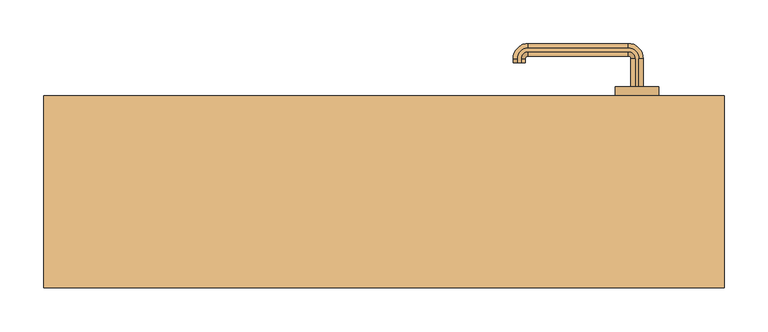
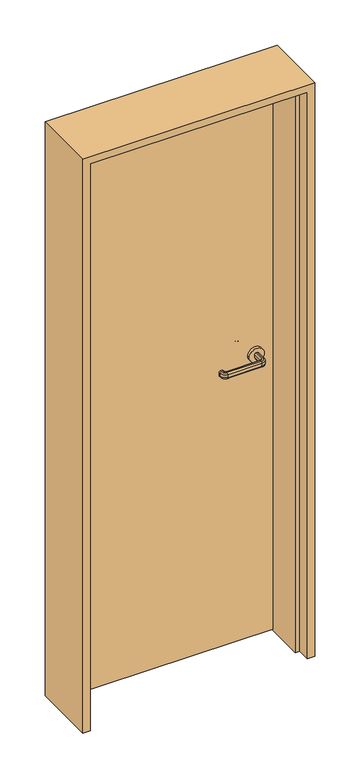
"""IFC4 building model written with IfcOpenShell, lengths in millimetres: door geometry, A1 片開 フラッシュ_A1枠 : SD10_H2000W700."""

import ifcopenshell
import ifcopenshell.guid

model = None  # the IFC model being written
_history = None  # IfcOwnerHistory: only IFC2X3 demands one
_inside = {}  # id of a spatial element -> (the spatial element, [elements in it])
_under = {}  # id of a project, library or spatial element -> (it, [spatial elements below it])
_declared = {}  # id of a project -> (the project, [libraries it declares])
_typed = {}  # id of a type object -> (the type object, [elements of that type])
_made_of = {}  # id of a material, layer set ... -> (it, [elements and type objects made of it])


def new_model(schema):
    """Start an empty IFC model of exactly this schema.

    Asked for "IFC4X3", IfcOpenShell would pick the latest addendum, in which some entities
    have other attributes; the version numbers below select the first issue.
    IFC2X3 requires an IfcOwnerHistory on every rooted entity: one is made here for all.
    """
    global model, _history
    if schema == "IFC4X3":
        model = ifcopenshell.file(schema_version=(4, 3, 0, 0))
    else:
        model = ifcopenshell.file(schema=schema)
    _inside.clear()
    _under.clear()
    _declared.clear()
    _typed.clear()
    _made_of.clear()
    _history = None
    if model.schema == "IFC2X3":
        org = make("IfcOrganization", Name="unknown")
        user = make(
            "IfcPersonAndOrganization",
            ThePerson=make("IfcPerson", FamilyName="unknown"),
            TheOrganization=org,
        )
        app = make(
            "IfcApplication",
            ApplicationDeveloper=org,
            Version="unknown",
            ApplicationFullName="unknown",
            ApplicationIdentifier="unknown",
        )
        _history = make(
            "IfcOwnerHistory",
            OwningUser=user,
            OwningApplication=app,
            ChangeAction="ADDED",
            CreationDate=0,
        )
    return model


def make(cls, **values):
    """One entity of the class cls with the attributes given. An attribute that is None is left unset."""
    return model.create_entity(
        cls, **{name: value for name, value in values.items() if value is not None}
    )


def rooted(cls, **values):
    """An entity with a GlobalId (a new one), such as an element, a storey or a relation."""
    return make(cls, GlobalId=ifcopenshell.guid.new(), OwnerHistory=_history, **values)


def si_unit(unit_type, name, prefix=None):
    """IfcSIUnit, for example si_unit("LENGTHUNIT", "METRE", prefix="MILLI")."""
    return make("IfcSIUnit", UnitType=unit_type, Prefix=prefix, Name=name)


def assignment(units):
    """IfcUnitAssignment: the units of a project."""
    return None if units is None else make("IfcUnitAssignment", Units=units)


def point(xyz):
    """IfcCartesianPoint."""
    return None if xyz is None else make("IfcCartesianPoint", Coordinates=xyz)


def direction(xyz):
    """IfcDirection."""
    return None if xyz is None else make("IfcDirection", DirectionRatios=xyz)


def frame(location, z_axis=None, x_axis=None):
    """IfcAxis2Placement3D, a coordinate frame: its origin and axes. An axis left out is left unset."""
    return make(
        "IfcAxis2Placement3D",
        Location=point(location),
        Axis=direction(z_axis),
        RefDirection=direction(x_axis),
    )


def frame_2d(location, x_axis=None):
    """IfcAxis2Placement2D, a coordinate frame in the plane: its origin and x axis."""
    return make(
        "IfcAxis2Placement2D", Location=point(location), RefDirection=direction(x_axis)
    )


def origin():
    """The frame at (0, 0, 0) with its axes left unset."""
    return frame((0.0, 0.0, 0.0))


def place(relative_to, where):
    """IfcLocalPlacement: puts the frame where relative to a parent placement (None: the world)."""
    return make(
        "IfcLocalPlacement", PlacementRelTo=relative_to, RelativePlacement=where
    )


def context(
    kind, dimensions, precision=None, world=None, true_north=None, identifier=None
):
    """IfcGeometricRepresentationContext, for example the 3D "Model" context."""
    return make(
        "IfcGeometricRepresentationContext",
        ContextIdentifier=identifier,
        ContextType=kind,
        CoordinateSpaceDimension=dimensions,
        Precision=precision,
        WorldCoordinateSystem=world,
        TrueNorth=true_north,
    )


def project(units=None, contexts=None):
    """IfcProject with its units and contexts."""
    return rooted(
        "IfcProject",
        Name="project",
        RepresentationContexts=contexts,
        UnitsInContext=assignment(units),
    )


def spatial(cls, under=None, at=None, **own):
    """A site, building, storey or space (cls), placed at a placement, below another one or the project."""
    s = rooted(cls, ObjectPlacement=at, **own)
    if under is not None:
        _under.setdefault(under.id(), (under, []))[1].append(s)
    return s


def polyline(points):
    """IfcPolyline through the points."""
    return make("IfcPolyline", Points=[point(p) for p in points])


def circle_curve(where, radius):
    """IfcCircle in the frame where."""
    return make("IfcCircle", Position=where, Radius=radius)


def ellipse_curve(where, semi_axis1, semi_axis2):
    """IfcEllipse in the frame where."""
    return make(
        "IfcEllipse", Position=where, SemiAxis1=semi_axis1, SemiAxis2=semi_axis2
    )


def trimmed(basis, trim1, trim2, sense, master):
    """IfcTrimmedCurve: the piece of a basis curve between two trims."""
    return make(
        "IfcTrimmedCurve",
        BasisCurve=basis,
        Trim1=trim1,
        Trim2=trim2,
        SenseAgreement=sense,
        MasterRepresentation=master,
    )


def segment(curve, same_sense, transition):
    """IfcCompositeCurveSegment."""
    return make(
        "IfcCompositeCurveSegment",
        Transition=transition,
        SameSense=same_sense,
        ParentCurve=curve,
    )


def composite_curve(segments, self_intersect=None):
    """IfcCompositeCurve: segments joined end to end."""
    return make("IfcCompositeCurve", Segments=segments, SelfIntersect=self_intersect)


def outline(outer, holes=None, kind="AREA"):
    """IfcArbitraryClosedProfileDef: a profile drawn as a closed curve; with holes, ...WithVoids."""
    if holes is None:
        return make("IfcArbitraryClosedProfileDef", ProfileType=kind, OuterCurve=outer)
    return make(
        "IfcArbitraryProfileDefWithVoids",
        ProfileType=kind,
        OuterCurve=outer,
        InnerCurves=holes,
    )


def extrude(swept, where, along, depth):
    """IfcExtrudedAreaSolid: the profile swept, set in the frame where, extruded along a direction by depth."""
    return make(
        "IfcExtrudedAreaSolid",
        SweptArea=swept,
        Position=where,
        ExtrudedDirection=direction(along),
        Depth=depth,
    )


def faces_of(points, faces, orient=None, outer=None):
    """IfcFace entities. A face is a list of loops; a loop is a list of indices into points, from 0.

    orient and outer hold one flag for each loop. By default every Orientation is true, the
    first loop of a face is its IfcFaceOuterBound and the others are IfcFaceBound.
    """
    made = []
    for i, loops in enumerate(faces):
        bounds = []
        for j, loop in enumerate(loops):
            is_outer = j == 0 if outer is None else outer[i][j]
            bounds.append(
                make(
                    "IfcFaceOuterBound" if is_outer else "IfcFaceBound",
                    Bound=make("IfcPolyLoop", Polygon=[points[k] for k in loop]),
                    Orientation=True if orient is None else orient[i][j],
                )
            )
        made.append(make("IfcFace", Bounds=bounds))
    return made


def faceted_brep(points, faces, orient=None, outer=None, voids=None):
    """IfcFacetedBrep: a solid bounded by flat faces; with voids (closed shells), ...WithVoids."""
    shared = [point(p) for p in points]
    hull = make("IfcClosedShell", CfsFaces=faces_of(shared, faces, orient, outer))
    if voids is None:
        return make("IfcFacetedBrep", Outer=hull)
    return make(
        "IfcFacetedBrepWithVoids",
        Outer=hull,
        Voids=[
            make(cls, CfsFaces=faces_of(shared, fs, o, b)) for cls, fs, o, b in voids
        ],
    )


def shape(context_of_items, identifier, shape_type, items):
    """IfcShapeRepresentation: the items that make up one representation, for example the "Body"."""
    return make(
        "IfcShapeRepresentation",
        ContextOfItems=context_of_items,
        RepresentationIdentifier=identifier,
        RepresentationType=shape_type,
        Items=items,
    )


def source(mapping_origin, context_of_items, identifier, shape_type, items):
    """IfcRepresentationMap: a shape defined once, which mapped items show again and again."""
    return make(
        "IfcRepresentationMap",
        MappingOrigin=mapping_origin,
        MappedRepresentation=shape(context_of_items, identifier, shape_type, items),
    )


def transform(
    local_origin,
    x_axis=None,
    y_axis=None,
    z_axis=None,
    scale=None,
    scale2=None,
    scale3=None,
    uniform=True,
):
    """IfcCartesianTransformationOperator3D, or its non-uniform kind. x_axis, y_axis, z_axis: its Axis1, 2, 3."""
    if uniform:
        return make(
            "IfcCartesianTransformationOperator3D",
            Axis1=direction(x_axis),
            Axis2=direction(y_axis),
            LocalOrigin=point(local_origin),
            Scale=scale,
            Axis3=direction(z_axis),
        )
    return make(
        "IfcCartesianTransformationOperator3DnonUniform",
        Axis1=direction(x_axis),
        Axis2=direction(y_axis),
        LocalOrigin=point(local_origin),
        Scale=scale,
        Axis3=direction(z_axis),
        Scale2=scale2,
        Scale3=scale3,
    )


def mapped(mapping_source, mapping_target):
    """IfcMappedItem: shows the shape of a source again, moved by a transform."""
    return make(
        "IfcMappedItem", MappingSource=mapping_source, MappingTarget=mapping_target
    )


def made_of(thing, what):
    """Note that an element or type object is made of a material, layer set ...; save() writes the relation."""
    if what is not None:
        _made_of.setdefault(what.id(), (what, []))[1].append(thing)
    return thing


def element(
    cls,
    number,
    at=None,
    inside=None,
    cuts=None,
    type_object=None,
    material=None,
    context=None,
    identifier="Body",
    shape_type=None,
    held_by="IfcProductDefinitionShape",
    body=None,
    shapes=None,
    **own,
):
    """One element of the class cls, such as IfcWall. Its Tag is "e" and its number.

    at: its placement. inside: the storey or other place that contains it. cuts: it is an
    opening in that element (IfcRelVoidsElement). A single representation is given by context,
    identifier, shape_type and body (its items); several are given by shapes. held_by: the class
    of the entity that holds the representations. save() writes the other relations.
    """
    e = rooted(cls, Tag="e%d" % number, ObjectPlacement=at, **own)
    if body is not None:
        shapes = [shape(context, identifier, shape_type, body)]
    if shapes is not None:
        e.Representation = make(held_by, Representations=shapes)
    if inside is not None:
        _inside.setdefault(inside.id(), (inside, []))[1].append(e)
    if cuts is not None:
        rooted(
            "IfcRelVoidsElement", RelatingBuildingElement=cuts, RelatedOpeningElement=e
        )
    if type_object is not None:
        _typed.setdefault(type_object.id(), (type_object, []))[1].append(e)
    return made_of(e, material)


def aggregate(whole, parts):
    """IfcRelAggregates: a whole, such as a stair, and the parts it consists of."""
    return rooted("IfcRelAggregates", RelatingObject=whole, RelatedObjects=parts)


def save(model, path):
    """Write the relations noted so far, then the file.

    IfcRelAggregates (storeys below a building ...), IfcRelContainedInSpatialStructure (elements
    in a storey), IfcRelDefinesByType, IfcRelAssociatesMaterial and IfcRelDeclares: one each for
    every whole, place, type object, material and project.
    """
    for whole, parts in _under.values():
        aggregate(whole, parts)
    for where, things in _inside.values():
        rooted(
            "IfcRelContainedInSpatialStructure",
            RelatedElements=things,
            RelatingStructure=where,
        )
    for kind, things in _typed.values():
        rooted("IfcRelDefinesByType", RelatedObjects=things, RelatingType=kind)
    for what, things in _made_of.values():
        rooted("IfcRelAssociatesMaterial", RelatedObjects=things, RelatingMaterial=what)
    for by, libraries in _declared.values():
        rooted("IfcRelDeclares", RelatingContext=by, RelatedDefinitions=libraries)
    model.write(path)


def plane_surface(at):
    """IfcPlane: the flat surface through the origin of the frame at, square to its z axis."""
    return make("IfcPlane", Position=at)


def cylinder_surface(at, radius):
    """IfcCylindricalSurface: all points at the distance radius from the z axis of the frame at."""
    return make("IfcCylindricalSurface", Position=at, Radius=radius)


def revolved_surface(curve, axis_point, axis_direction):
    """IfcSurfaceOfRevolution: the curve turned about the line through axis_point along axis_direction."""
    return make(
        "IfcSurfaceOfRevolution",
        SweptCurve=make("IfcArbitraryOpenProfileDef", ProfileType="CURVE", Curve=curve),
        AxisPosition=make("IfcAxis1Placement", Location=point(axis_point), Axis=direction(axis_direction)),
    )


def advanced_brep(points, edges, surfaces, faces):
    """IfcAdvancedBrep: a solid bounded by faces that lie on surfaces and meet in shared edges.

    An edge is (start, end): straight between two places in points (the first is 0);
    or (start, end, curve); or (start, end, curve, False) where it runs against its curve.
    A face is (place in surfaces, loops), or (place, loops, False) where it looks against
    its surface's normal. A loop lists edges by number (the first is 1), with a minus sign
    where the edge is run from its end to its start. The first loop is the outer one.
    """
    corners = [point(p) for p in points]
    vertices = [make("IfcVertexPoint", VertexGeometry=c) for c in corners]
    made = []
    for start, end, *more in edges:
        made.append(
            make(
                "IfcEdgeCurve",
                EdgeStart=vertices[start],
                EdgeEnd=vertices[end],
                EdgeGeometry=more[0] if more else make("IfcPolyline", Points=[corners[start], corners[end]]),
                SameSense=more[1] if len(more) > 1 else True,
            )
        )
    hull = []
    for where, loops, *sense in faces:
        bounds = []
        for j, loop in enumerate(loops):
            ring = [make("IfcOrientedEdge", EdgeElement=made[abs(k) - 1], Orientation=k > 0) for k in loop]
            bounds.append(
                make(
                    "IfcFaceOuterBound" if j == 0 else "IfcFaceBound",
                    Bound=make("IfcEdgeLoop", EdgeList=ring),
                    Orientation=True,
                )
            )
        hull.append(make("IfcAdvancedFace", Bounds=bounds, FaceSurface=surfaces[where], SameSense=sense[0] if sense else True))
    return make("IfcAdvancedBrep", Outer=make("IfcClosedShell", CfsFaces=hull))


def door_4b055558(model_context):
    return source(origin(), model_context, "Body", "SolidModel", [
        advanced_brep(
        [(292.0, 120.0, 1015.0), (288.0, 120.0, 1015.0), (283.0, 120.0, 1010.0), (283.0, 120.0, 1000.0477623), (288.0, 120.0, 995.0477623), (292.0, 120.0, 995.0477623), (297.0, 120.0, 1000.0477623), (297.0, 120.0, 1010.0), (297.0, 152.5, 1010.0), (292.0, 152.5, 1015.0), (297.0, 152.5, 1000.0477623), (292.0, 152.5, 995.0477623), (288.0, 152.5, 995.0477623), (280.0, 160.5, 995.0477623), (165.0, 160.5, 995.0477623), (157.0, 152.5, 995.0477623), (157.0, 147.5, 995.0477623), (153.0, 147.5, 995.0477623), (153.0, 152.5, 995.0477623), (165.0, 164.5, 995.0477623), (280.0, 164.5, 995.0477623), (283.0, 152.5, 1000.0477623), (283.0, 152.5, 1010.0), (288.0, 152.5, 1015.0), (280.0, 164.5, 1015.0), (165.0, 164.5, 1015.0), (153.0, 152.5, 1015.0), (153.0, 147.5, 1015.0), (157.0, 147.5, 1015.0), (157.0, 152.5, 1015.0), (165.0, 160.5, 1015.0), (280.0, 160.5, 1015.0), (280.0, 169.5, 1010.0), (280.0, 169.5, 1000.0477623), (280.0, 155.5, 1000.0477623), (280.0, 155.5, 1010.0), (165.0, 169.5, 1010.0), (165.0, 169.5, 1000.0477623), (165.0, 155.5, 1000.0477623), (165.0, 155.5, 1010.0), (148.0, 152.5, 1010.0), (148.0, 152.5, 1000.0477623), (162.0, 152.5, 1000.0477623), (162.0, 152.5, 1010.0), (148.0, 147.5, 1010.0), (148.0, 147.5, 1000.0477623), (162.0, 147.5, 1000.0477623), (162.0, 147.5, 1010.0)],
        [
            (0, 1),
            (1, 2, circle_curve(frame((288.0, 120.0, 1010.0), z_axis=(0.0, -1.0, 0.0), x_axis=(1.0, 0.0, 0.0)), 5.0)),
            (2, 3),
            (3, 4, circle_curve(frame((288.0, 120.0, 1000.0477623), z_axis=(0.0, -1.0, 0.0), x_axis=(1.0, 0.0, 0.0)), 5.0)),
            (4, 5),
            (5, 6, circle_curve(frame((292.0, 120.0, 1000.0477623), z_axis=(0.0, -1.0, 0.0), x_axis=(1.0, 0.0, 0.0)), 5.0)),
            (6, 7),
            (7, 0, circle_curve(frame((292.0, 120.0, 1010.0), z_axis=(0.0, -1.0, 0.0), x_axis=(1.0, 0.0, 0.0)), 5.0)),
            (7, 8),
            (8, 9, circle_curve(frame((292.0, 152.5, 1010.0), z_axis=(0.0, -1.0, 0.0), x_axis=(1.0, 0.0, 0.0)), 5.0)),
            (9, 0),
            (6, 10),
            (10, 8),
            (5, 11),
            (11, 10, circle_curve(frame((292.0, 152.5, 1000.0477623), z_axis=(0.0, -1.0, 0.0), x_axis=(1.0, 0.0, 0.0)), 5.0)),
            (4, 12),
            (12, 13, circle_curve(frame((280.0, 152.5, 995.0477623), z_axis=(0.0, 0.0, 1.0), x_axis=(1.0, 0.0, 0.0)), 8.0)),
            (13, 14),
            (14, 15, circle_curve(frame((165.0, 152.5, 995.0477623), z_axis=(0.0, 0.0, 1.0), x_axis=(0.0, 1.0, 0.0)), 8.0)),
            (15, 16),
            (16, 17),
            (17, 18),
            (18, 19, circle_curve(frame((165.0, 152.5, 995.0477623), z_axis=(0.0, 0.0, -1.0), x_axis=(0.0, 1.0, 0.0)), 12.0)),
            (19, 20),
            (20, 11, circle_curve(frame((280.0, 152.5, 995.0477623), z_axis=(0.0, 0.0, -1.0), x_axis=(1.0, 0.0, 0.0)), 12.0)),
            (3, 21),
            (21, 12, circle_curve(frame((288.0, 152.5, 1000.0477623), z_axis=(0.0, -1.0, 0.0), x_axis=(1.0, 0.0, 0.0)), 5.0)),
            (2, 22),
            (22, 21),
            (1, 23),
            (23, 22, circle_curve(frame((288.0, 152.5, 1010.0), z_axis=(0.0, -1.0, 0.0), x_axis=(1.0, 0.0, 0.0)), 5.0)),
            (9, 24, circle_curve(frame((280.0, 152.5, 1015.0), z_axis=(0.0, 0.0, 1.0), x_axis=(1.0, 0.0, 0.0)), 12.0)),
            (24, 25),
            (25, 26, circle_curve(frame((165.0, 152.5, 1015.0), z_axis=(0.0, 0.0, 1.0), x_axis=(0.0, 1.0, 0.0)), 12.0)),
            (26, 27),
            (27, 28),
            (28, 29),
            (29, 30, circle_curve(frame((165.0, 152.5, 1015.0), z_axis=(0.0, 0.0, -1.0), x_axis=(0.0, 1.0, 0.0)), 8.0)),
            (30, 31),
            (31, 23, circle_curve(frame((280.0, 152.5, 1015.0), z_axis=(0.0, 0.0, -1.0), x_axis=(1.0, 0.0, 0.0)), 8.0)),
            (32, 24, circle_curve(frame((280.0, 164.5, 1010.0), z_axis=(1.0, 0.0, 0.0), x_axis=(0.0, 1.0, 0.0)), 5.0)),
            (8, 32, circle_curve(frame((280.0, 152.5, 1010.0), z_axis=(0.0, 0.0, 1.0), x_axis=(1.0, 0.0, 0.0)), 17.0)),
            (33, 32),
            (10, 33, circle_curve(frame((280.0, 152.5, 1000.0477623), z_axis=(0.0, 0.0, 1.0), x_axis=(1.0, 0.0, 0.0)), 17.0)),
            (20, 33, circle_curve(frame((280.0, 164.5, 1000.0477623), z_axis=(1.0, 0.0, 0.0), x_axis=(0.0, 1.0, 0.0)), 5.0)),
            (34, 13, circle_curve(frame((280.0, 160.5, 1000.0477623), z_axis=(1.0, 0.0, 0.0), x_axis=(0.0, 1.0, 0.0)), 5.0)),
            (21, 34, circle_curve(frame((280.0, 152.5, 1000.0477623), z_axis=(0.0, 0.0, 1.0), x_axis=(1.0, 0.0, 0.0)), 3.0)),
            (35, 34),
            (22, 35, circle_curve(frame((280.0, 152.5, 1010.0), z_axis=(0.0, 0.0, 1.0), x_axis=(1.0, 0.0, 0.0)), 3.0)),
            (31, 35, circle_curve(frame((280.0, 160.5, 1010.0), z_axis=(1.0, 0.0, 0.0), x_axis=(0.0, 1.0, 0.0)), 5.0)),
            (32, 36),
            (36, 25, circle_curve(frame((165.0, 164.5, 1010.0), z_axis=(1.0, 0.0, 0.0), x_axis=(0.0, 1.0, 0.0)), 5.0)),
            (33, 37),
            (37, 36),
            (19, 37, circle_curve(frame((165.0, 164.5, 1000.0477623), z_axis=(1.0, 0.0, 0.0), x_axis=(0.0, 1.0, 0.0)), 5.0)),
            (34, 38),
            (38, 14, circle_curve(frame((165.0, 160.5, 1000.0477623), z_axis=(1.0, 0.0, 0.0), x_axis=(0.0, 1.0, 0.0)), 5.0)),
            (35, 39),
            (39, 38),
            (30, 39, circle_curve(frame((165.0, 160.5, 1010.0), z_axis=(1.0, 0.0, 0.0), x_axis=(0.0, 1.0, 0.0)), 5.0)),
            (40, 26, circle_curve(frame((153.0, 152.5, 1010.0), z_axis=(0.0, 1.0, 0.0), x_axis=(-1.0, 0.0, 0.0)), 5.0)),
            (36, 40, circle_curve(frame((165.0, 152.5, 1010.0), z_axis=(0.0, 0.0, 1.0), x_axis=(0.0, 1.0, 0.0)), 17.0)),
            (41, 40),
            (37, 41, circle_curve(frame((165.0, 152.5, 1000.0477623), z_axis=(0.0, 0.0, 1.0), x_axis=(0.0, 1.0, 0.0)), 17.0)),
            (18, 41, circle_curve(frame((153.0, 152.5, 1000.0477623), z_axis=(0.0, 1.0, 0.0), x_axis=(-1.0, 0.0, 0.0)), 5.0)),
            (42, 15, circle_curve(frame((157.0, 152.5, 1000.0477623), z_axis=(0.0, 1.0, 0.0), x_axis=(-1.0, 0.0, 0.0)), 5.0)),
            (38, 42, circle_curve(frame((165.0, 152.5, 1000.0477623), z_axis=(0.0, 0.0, 1.0), x_axis=(0.0, 1.0, 0.0)), 3.0)),
            (43, 42),
            (39, 43, circle_curve(frame((165.0, 152.5, 1010.0), z_axis=(0.0, 0.0, 1.0), x_axis=(0.0, 1.0, 0.0)), 3.0)),
            (29, 43, circle_curve(frame((157.0, 152.5, 1010.0), z_axis=(0.0, 1.0, 0.0), x_axis=(-1.0, 0.0, 0.0)), 5.0)),
            (27, 44, circle_curve(frame((153.0, 147.5, 1010.0), z_axis=(0.0, -1.0, 0.0), x_axis=(-1.0, 0.0, 0.0)), 5.0)),
            (44, 45),
            (45, 17, circle_curve(frame((153.0, 147.5, 1000.0477623), z_axis=(0.0, -1.0, 0.0), x_axis=(-1.0, 0.0, 0.0)), 5.0)),
            (16, 46, circle_curve(frame((157.0, 147.5, 1000.0477623), z_axis=(0.0, -1.0, 0.0), x_axis=(-1.0, 0.0, 0.0)), 5.0)),
            (46, 47),
            (47, 28, circle_curve(frame((157.0, 147.5, 1010.0), z_axis=(0.0, -1.0, 0.0), x_axis=(-1.0, 0.0, 0.0)), 5.0)),
            (40, 44),
            (41, 45),
            (42, 46),
            (43, 47),
        ],
        [
            plane_surface(frame((300.198039, 120.0, 1005.0), z_axis=(0.0, -1.0, 0.0), x_axis=(0.0, 0.0, 1.0))),
            cylinder_surface(frame((292.0, 120.0, 1010.0), z_axis=(0.0, -1.0, 0.0), x_axis=(1.0, 0.0, 0.0)), 5.0),
            plane_surface(frame((297.0, 120.0, 1010.0), z_axis=(1.0, 0.0, 0.0), x_axis=(0.0, 1.0, 0.0))),
            cylinder_surface(frame((292.0, 120.0, 1000.0477623), z_axis=(0.0, -1.0, 0.0), x_axis=(1.0, 0.0, 0.0)), 5.0),
            plane_surface(frame((292.0, 120.0, 995.0477623), z_axis=(0.0, 0.0, -1.0), x_axis=(0.0, 1.0, 0.0))),
            cylinder_surface(frame((288.0, 120.0, 1000.0477623), z_axis=(0.0, -1.0, 0.0), x_axis=(1.0, 0.0, 0.0)), 5.0),
            plane_surface(frame((283.0, 120.0, 1000.0477623), z_axis=(-1.0, 0.0, 0.0), x_axis=(0.0, 1.0, 0.0))),
            cylinder_surface(frame((288.0, 120.0, 1010.0), z_axis=(0.0, -1.0, 0.0), x_axis=(1.0, 0.0, 0.0)), 5.0),
            plane_surface(frame((288.0, 120.0, 1015.0), z_axis=(0.0, 0.0, 1.0), x_axis=(0.0, 1.0, 0.0))),
            revolved_surface(trimmed(ellipse_curve(frame((292.0, 152.5, 1010.0), z_axis=(0.0, 1.0, 0.0), x_axis=(1.0, 0.0, 0.0)), 5.0, 5.0), [point((292.0, 152.5, 1015.0))], [point((297.0, 152.5, 1010.0))], True, "CARTESIAN"), (280.0, 152.5, 1005.0), (0.0, 0.0, -1.0)),
            cylinder_surface(frame((280.0, 152.5, 1005.0), z_axis=(0.0, 0.0, -1.0), x_axis=(1.0, 0.0, 0.0)), 17.0),
            revolved_surface(trimmed(ellipse_curve(frame((292.0, 152.5, 1000.0477623), z_axis=(0.0, 1.0, 0.0), x_axis=(1.0, 0.0, 0.0)), 5.0, 5.0), [point((297.0, 152.5, 1000.0477623))], [point((292.0, 152.5, 995.0477623))], True, "CARTESIAN"), (280.0, 152.5, 1005.0), (0.0, 0.0, -1.0)),
            revolved_surface(trimmed(ellipse_curve(frame((288.0, 152.5, 1000.0477623), z_axis=(0.0, 1.0, 0.0), x_axis=(1.0, 0.0, 0.0)), 5.0, 5.0), [point((288.0, 152.5, 995.0477623))], [point((283.0, 152.5, 1000.0477623))], True, "CARTESIAN"), (280.0, 152.5, 1005.0), (0.0, 0.0, -1.0)),
            revolved_surface(polyline([(283.0, 152.5, 1000.0477623), (283.0, 152.5, 1010.0)]), (280.0, 152.5, 1005.0), (0.0, 0.0, -1.0)),
            revolved_surface(trimmed(ellipse_curve(frame((288.0, 152.5, 1010.0), z_axis=(0.0, 1.0, 0.0), x_axis=(1.0, 0.0, 0.0)), 5.0, 5.0), [point((283.0, 152.5, 1010.0))], [point((288.0, 152.5, 1015.0))], True, "CARTESIAN"), (280.0, 152.5, 1005.0), (0.0, 0.0, -1.0)),
            cylinder_surface(frame((280.0, 164.5, 1010.0), z_axis=(1.0, 0.0, 0.0), x_axis=(0.0, 1.0, 0.0)), 5.0),
            plane_surface(frame((280.0, 169.5, 1010.0), z_axis=(0.0, 1.0, 0.0), x_axis=(-1.0, 0.0, 0.0))),
            cylinder_surface(frame((280.0, 164.5, 1000.0477623), z_axis=(1.0, 0.0, 0.0), x_axis=(0.0, 1.0, 0.0)), 5.0),
            cylinder_surface(frame((280.0, 160.5, 1000.0477623), z_axis=(1.0, 0.0, 0.0), x_axis=(0.0, 1.0, 0.0)), 5.0),
            plane_surface(frame((280.0, 155.5, 1000.0477623), z_axis=(0.0, -1.0, 0.0), x_axis=(-1.0, 0.0, 0.0))),
            cylinder_surface(frame((280.0, 160.5, 1010.0), z_axis=(1.0, 0.0, 0.0), x_axis=(0.0, 1.0, 0.0)), 5.0),
            revolved_surface(trimmed(ellipse_curve(frame((165.0, 164.5, 1010.0), z_axis=(-1.0, 0.0, 0.0), x_axis=(0.0, 1.0, 0.0)), 5.0, 5.0), [point((165.0, 164.5, 1015.0))], [point((165.0, 169.5, 1010.0))], True, "CARTESIAN"), (165.0, 152.5, 1005.0), (0.0, 0.0, -1.0)),
            cylinder_surface(frame((165.0, 152.5, 1005.0), z_axis=(0.0, 0.0, -1.0), x_axis=(0.0, 1.0, 0.0)), 17.0),
            revolved_surface(trimmed(ellipse_curve(frame((165.0, 164.5, 1000.0477623), z_axis=(-1.0, 0.0, 0.0), x_axis=(0.0, 1.0, 0.0)), 5.0, 5.0), [point((165.0, 169.5, 1000.0477623))], [point((165.0, 164.5, 995.0477623))], True, "CARTESIAN"), (165.0, 152.5, 1005.0), (0.0, 0.0, -1.0)),
            revolved_surface(trimmed(ellipse_curve(frame((165.0, 160.5, 1000.0477623), z_axis=(-1.0, 0.0, 0.0), x_axis=(0.0, 1.0, 0.0)), 5.0, 5.0), [point((165.0, 160.5, 995.0477623))], [point((165.0, 155.5, 1000.0477623))], True, "CARTESIAN"), (165.0, 152.5, 1005.0), (0.0, 0.0, -1.0)),
            revolved_surface(polyline([(165.0, 155.5, 1000.0477623), (165.0, 155.5, 1010.0)]), (165.0, 152.5, 1005.0), (0.0, 0.0, -1.0)),
            revolved_surface(trimmed(ellipse_curve(frame((165.0, 160.5, 1010.0), z_axis=(-1.0, 0.0, 0.0), x_axis=(0.0, 1.0, 0.0)), 5.0, 5.0), [point((165.0, 155.5, 1010.0))], [point((165.0, 160.5, 1015.0))], True, "CARTESIAN"), (165.0, 152.5, 1005.0), (0.0, 0.0, -1.0)),
            plane_surface(frame((165.198039, 147.5, 1005.0), z_axis=(0.0, -1.0, 0.0), x_axis=(0.0, 0.0, -1.0))),
            cylinder_surface(frame((153.0, 152.5, 1010.0), z_axis=(0.0, 1.0, 0.0), x_axis=(-1.0, 0.0, 0.0)), 5.0),
            plane_surface(frame((148.0, 152.5, 1010.0), z_axis=(-1.0, 0.0, 0.0), x_axis=(0.0, -1.0, 0.0))),
            cylinder_surface(frame((153.0, 152.5, 1000.0477623), z_axis=(0.0, 1.0, 0.0), x_axis=(-1.0, 0.0, 0.0)), 5.0),
            cylinder_surface(frame((157.0, 152.5, 1000.0477623), z_axis=(0.0, 1.0, 0.0), x_axis=(-1.0, 0.0, 0.0)), 5.0),
            plane_surface(frame((162.0, 152.5, 1000.0477623), z_axis=(1.0, 0.0, 0.0), x_axis=(0.0, -1.0, 0.0))),
            cylinder_surface(frame((157.0, 152.5, 1010.0), z_axis=(0.0, 1.0, 0.0), x_axis=(-1.0, 0.0, 0.0)), 5.0),
        ],
        [
            (0, [[1, 2, 3, 4, 5, 6, 7, 8]]),
            (1, [[9, 10, 11, -8]]),
            (2, [[12, 13, -9, -7]]),
            (3, [[14, 15, -12, -6]]),
            (4, [[16, 17, 18, 19, 20, 21, 22, 23, 24, 25, -14, -5]]),
            (5, [[26, 27, -16, -4]]),
            (6, [[28, 29, -26, -3]]),
            (7, [[30, 31, -28, -2]]),
            (8, [[-11, 32, 33, 34, 35, 36, 37, 38, 39, 40, -30, -1]]),
            (9, [[41, -32, -10, 42]]),
            (10, [[43, -42, -13, 44]]),
            (11, [[45, -44, -15, -25]]),
            (12, [[46, -17, -27, 47]]),
            (13, [[48, -47, -29, 49]]),
            (14, [[50, -49, -31, -40]]),
            (15, [[51, 52, -33, -41]]),
            (16, [[53, 54, -51, -43]]),
            (17, [[-24, 55, -53, -45]]),
            (18, [[56, 57, -18, -46]]),
            (19, [[58, 59, -56, -48]]),
            (20, [[-39, 60, -58, -50]]),
            (21, [[61, -34, -52, 62]]),
            (22, [[63, -62, -54, 64]]),
            (23, [[65, -64, -55, -23]]),
            (24, [[66, -19, -57, 67]]),
            (25, [[68, -67, -59, 69]]),
            (26, [[70, -69, -60, -38]]),
            (27, [[71, 72, 73, -21, 74, 75, 76, -36]]),
            (28, [[77, -71, -35, -61]]),
            (29, [[78, -72, -77, -63]]),
            (30, [[-22, -73, -78, -65]]),
            (31, [[79, -74, -20, -66]]),
            (32, [[80, -75, -79, -68]]),
            (33, [[-37, -76, -80, -70]]),
        ],
    ),
        advanced_brep(
        [(288.0, 55.0, 995.0), (283.0, 55.0, 1000.0), (283.0, 55.0, 1010.0), (288.0, 55.0, 1015.0), (292.0, 55.0, 1015.0), (297.0, 55.0, 1010.0), (297.0, 55.0, 1000.0), (292.0, 55.0, 995.0), (292.0, 22.5, 995.0), (280.0, 10.5, 995.0), (165.0, 10.5, 995.0), (153.0, 22.5, 995.0), (153.0, 27.5, 995.0), (157.0, 27.5, 995.0), (157.0, 22.5, 995.0), (165.0, 14.5, 995.0), (280.0, 14.5, 995.0), (288.0, 22.5, 995.0), (297.0, 22.5, 1000.0), (297.0, 22.5, 1010.0), (292.0, 22.5, 1015.0), (288.0, 22.5, 1015.0), (280.0, 14.5, 1015.0), (165.0, 14.5, 1015.0), (157.0, 22.5, 1015.0), (157.0, 27.5, 1015.0), (153.0, 27.5, 1015.0), (153.0, 22.5, 1015.0), (165.0, 10.5, 1015.0), (280.0, 10.5, 1015.0), (283.0, 22.5, 1010.0), (283.0, 22.5, 1000.0), (280.0, 5.5, 1000.0), (280.0, 5.5, 1010.0), (280.0, 19.5, 1010.0), (280.0, 19.5, 1000.0), (165.0, 5.5, 1000.0), (165.0, 5.5, 1010.0), (165.0, 19.5, 1010.0), (165.0, 19.5, 1000.0), (148.0, 22.5, 1000.0), (148.0, 22.5, 1010.0), (162.0, 22.5, 1010.0), (162.0, 22.5, 1000.0), (148.0, 27.5, 1000.0), (148.0, 27.5, 1010.0), (162.0, 27.5, 1010.0), (162.0, 27.5, 1000.0)],
        [
            (0, 1, circle_curve(frame((288.0, 55.0, 1000.0), z_axis=(0.0, 1.0, 0.0), x_axis=(-1.0, 0.0, 0.0)), 5.0)),
            (1, 2),
            (2, 3, circle_curve(frame((288.0, 55.0, 1010.0), z_axis=(0.0, 1.0, 0.0), x_axis=(-1.0, 0.0, 0.0)), 5.0)),
            (3, 4),
            (4, 5, circle_curve(frame((292.0, 55.0, 1010.0), z_axis=(0.0, 1.0, 0.0), x_axis=(-1.0, 0.0, 0.0)), 5.0)),
            (5, 6),
            (6, 7, circle_curve(frame((292.0, 55.0, 1000.0), z_axis=(0.0, 1.0, 0.0), x_axis=(-1.0, 0.0, 0.0)), 5.0)),
            (7, 0),
            (7, 8),
            (8, 9, circle_curve(frame((280.0, 22.5, 995.0), z_axis=(0.0, 0.0, -1.0), x_axis=(1.0, 0.0, 0.0)), 12.0)),
            (9, 10),
            (10, 11, circle_curve(frame((165.0, 22.5, 995.0), z_axis=(0.0, 0.0, -1.0), x_axis=(0.0, -1.0, 0.0)), 12.0)),
            (11, 12),
            (12, 13),
            (13, 14),
            (14, 15, circle_curve(frame((165.0, 22.5, 995.0), z_axis=(0.0, 0.0, 1.0), x_axis=(0.0, -1.0, 0.0)), 8.0)),
            (15, 16),
            (16, 17, circle_curve(frame((280.0, 22.5, 995.0), z_axis=(0.0, 0.0, 1.0), x_axis=(1.0, 0.0, 0.0)), 8.0)),
            (17, 0),
            (6, 18),
            (18, 8, circle_curve(frame((292.0, 22.5, 1000.0), z_axis=(0.0, 1.0, 0.0), x_axis=(-1.0, 0.0, 0.0)), 5.0)),
            (5, 19),
            (19, 18),
            (4, 20),
            (20, 19, circle_curve(frame((292.0, 22.5, 1010.0), z_axis=(0.0, 1.0, 0.0), x_axis=(-1.0, 0.0, 0.0)), 5.0)),
            (3, 21),
            (21, 22, circle_curve(frame((280.0, 22.5, 1015.0), z_axis=(0.0, 0.0, -1.0), x_axis=(1.0, 0.0, 0.0)), 8.0)),
            (22, 23),
            (23, 24, circle_curve(frame((165.0, 22.5, 1015.0), z_axis=(0.0, 0.0, -1.0), x_axis=(0.0, -1.0, 0.0)), 8.0)),
            (24, 25),
            (25, 26),
            (26, 27),
            (27, 28, circle_curve(frame((165.0, 22.5, 1015.0), z_axis=(0.0, 0.0, 1.0), x_axis=(0.0, -1.0, 0.0)), 12.0)),
            (28, 29),
            (29, 20, circle_curve(frame((280.0, 22.5, 1015.0), z_axis=(0.0, 0.0, 1.0), x_axis=(1.0, 0.0, 0.0)), 12.0)),
            (2, 30),
            (30, 21, circle_curve(frame((288.0, 22.5, 1010.0), z_axis=(0.0, 1.0, 0.0), x_axis=(-1.0, 0.0, 0.0)), 5.0)),
            (1, 31),
            (31, 30),
            (17, 31, circle_curve(frame((288.0, 22.5, 1000.0), z_axis=(0.0, 1.0, 0.0), x_axis=(-1.0, 0.0, 0.0)), 5.0)),
            (32, 9, circle_curve(frame((280.0, 10.5, 1000.0), z_axis=(1.0, 0.0, 0.0), x_axis=(0.0, 1.0, 0.0)), 5.0)),
            (18, 32, circle_curve(frame((280.0, 22.5, 1000.0), z_axis=(0.0, 0.0, -1.0), x_axis=(1.0, 0.0, 0.0)), 17.0)),
            (33, 32),
            (19, 33, circle_curve(frame((280.0, 22.5, 1010.0), z_axis=(0.0, 0.0, -1.0), x_axis=(1.0, 0.0, 0.0)), 17.0)),
            (29, 33, circle_curve(frame((280.0, 10.5, 1010.0), z_axis=(1.0, 0.0, 0.0), x_axis=(0.0, 1.0, 0.0)), 5.0)),
            (34, 22, circle_curve(frame((280.0, 14.5, 1010.0), z_axis=(1.0, 0.0, 0.0), x_axis=(0.0, 1.0, 0.0)), 5.0)),
            (30, 34, circle_curve(frame((280.0, 22.5, 1010.0), z_axis=(0.0, 0.0, -1.0), x_axis=(1.0, 0.0, 0.0)), 3.0)),
            (35, 34),
            (31, 35, circle_curve(frame((280.0, 22.5, 1000.0), z_axis=(0.0, 0.0, -1.0), x_axis=(1.0, 0.0, 0.0)), 3.0)),
            (16, 35, circle_curve(frame((280.0, 14.5, 1000.0), z_axis=(1.0, 0.0, 0.0), x_axis=(0.0, 1.0, 0.0)), 5.0)),
            (32, 36),
            (36, 10, circle_curve(frame((165.0, 10.5, 1000.0), z_axis=(1.0, 0.0, 0.0), x_axis=(0.0, 1.0, 0.0)), 5.0)),
            (33, 37),
            (37, 36),
            (28, 37, circle_curve(frame((165.0, 10.5, 1010.0), z_axis=(1.0, 0.0, 0.0), x_axis=(0.0, 1.0, 0.0)), 5.0)),
            (34, 38),
            (38, 23, circle_curve(frame((165.0, 14.5, 1010.0), z_axis=(1.0, 0.0, 0.0), x_axis=(0.0, 1.0, 0.0)), 5.0)),
            (35, 39),
            (39, 38),
            (15, 39, circle_curve(frame((165.0, 14.5, 1000.0), z_axis=(1.0, 0.0, 0.0), x_axis=(0.0, 1.0, 0.0)), 5.0)),
            (40, 11, circle_curve(frame((153.0, 22.5, 1000.0), z_axis=(0.0, -1.0, 0.0), x_axis=(1.0, 0.0, 0.0)), 5.0)),
            (36, 40, circle_curve(frame((165.0, 22.5, 1000.0), z_axis=(0.0, 0.0, -1.0), x_axis=(0.0, -1.0, 0.0)), 17.0)),
            (41, 40),
            (37, 41, circle_curve(frame((165.0, 22.5, 1010.0), z_axis=(0.0, 0.0, -1.0), x_axis=(0.0, -1.0, 0.0)), 17.0)),
            (27, 41, circle_curve(frame((153.0, 22.5, 1010.0), z_axis=(0.0, -1.0, 0.0), x_axis=(1.0, 0.0, 0.0)), 5.0)),
            (42, 24, circle_curve(frame((157.0, 22.5, 1010.0), z_axis=(0.0, -1.0, 0.0), x_axis=(1.0, 0.0, 0.0)), 5.0)),
            (38, 42, circle_curve(frame((165.0, 22.5, 1010.0), z_axis=(0.0, 0.0, -1.0), x_axis=(0.0, -1.0, 0.0)), 3.0)),
            (43, 42),
            (39, 43, circle_curve(frame((165.0, 22.5, 1000.0), z_axis=(0.0, 0.0, -1.0), x_axis=(0.0, -1.0, 0.0)), 3.0)),
            (14, 43, circle_curve(frame((157.0, 22.5, 1000.0), z_axis=(0.0, -1.0, 0.0), x_axis=(1.0, 0.0, 0.0)), 5.0)),
            (12, 44, circle_curve(frame((153.0, 27.5, 1000.0), z_axis=(0.0, 1.0, 0.0), x_axis=(1.0, 0.0, 0.0)), 5.0)),
            (44, 45),
            (45, 26, circle_curve(frame((153.0, 27.5, 1010.0), z_axis=(0.0, 1.0, 0.0), x_axis=(1.0, 0.0, 0.0)), 5.0)),
            (25, 46, circle_curve(frame((157.0, 27.5, 1010.0), z_axis=(0.0, 1.0, 0.0), x_axis=(1.0, 0.0, 0.0)), 5.0)),
            (46, 47),
            (47, 13, circle_curve(frame((157.0, 27.5, 1000.0), z_axis=(0.0, 1.0, 0.0), x_axis=(1.0, 0.0, 0.0)), 5.0)),
            (40, 44),
            (41, 45),
            (42, 46),
            (43, 47),
        ],
        [
            plane_surface(frame((300.198039, 55.0, 1005.0), z_axis=(0.0, 1.0, 0.0), x_axis=(0.0, 0.0, -1.0))),
            plane_surface(frame((288.0, 55.0, 995.0), z_axis=(0.0, 0.0, -1.0), x_axis=(0.0, -1.0, 0.0))),
            cylinder_surface(frame((292.0, 55.0, 1000.0), z_axis=(0.0, 1.0, 0.0), x_axis=(-1.0, 0.0, 0.0)), 5.0),
            plane_surface(frame((297.0, 55.0, 1000.0), z_axis=(1.0, 0.0, 0.0), x_axis=(0.0, -1.0, 0.0))),
            cylinder_surface(frame((292.0, 55.0, 1010.0), z_axis=(0.0, 1.0, 0.0), x_axis=(-1.0, 0.0, 0.0)), 5.0),
            plane_surface(frame((292.0, 55.0, 1015.0), z_axis=(0.0, 0.0, 1.0), x_axis=(0.0, -1.0, 0.0))),
            cylinder_surface(frame((288.0, 55.0, 1010.0), z_axis=(0.0, 1.0, 0.0), x_axis=(-1.0, 0.0, 0.0)), 5.0),
            plane_surface(frame((283.0, 55.0, 1010.0), z_axis=(-1.0, 0.0, 0.0), x_axis=(0.0, -1.0, 0.0))),
            cylinder_surface(frame((288.0, 55.0, 1000.0), z_axis=(0.0, 1.0, 0.0), x_axis=(-1.0, 0.0, 0.0)), 5.0),
            revolved_surface(trimmed(ellipse_curve(frame((292.0, 22.5, 1000.0), z_axis=(0.0, -1.0, 0.0), x_axis=(-1.0, 0.0, 0.0)), 5.0, 5.0), [point((292.0, 22.5, 995.0))], [point((297.0, 22.5, 1000.0))], True, "CARTESIAN"), (280.0, 22.5, 1005.0), (0.0, 0.0, 1.0)),
            cylinder_surface(frame((280.0, 22.5, 1005.0), z_axis=(0.0, 0.0, 1.0), x_axis=(1.0, 0.0, 0.0)), 17.0),
            revolved_surface(trimmed(ellipse_curve(frame((292.0, 22.5, 1010.0), z_axis=(0.0, -1.0, 0.0), x_axis=(-1.0, 0.0, 0.0)), 5.0, 5.0), [point((297.0, 22.5, 1010.0))], [point((292.0, 22.5, 1015.0))], True, "CARTESIAN"), (280.0, 22.5, 1005.0), (0.0, 0.0, 1.0)),
            revolved_surface(trimmed(ellipse_curve(frame((288.0, 22.5, 1010.0), z_axis=(0.0, -1.0, 0.0), x_axis=(-1.0, 0.0, 0.0)), 5.0, 5.0), [point((288.0, 22.5, 1015.0))], [point((283.0, 22.5, 1010.0))], True, "CARTESIAN"), (280.0, 22.5, 1005.0), (0.0, 0.0, 1.0)),
            revolved_surface(polyline([(283.0, 22.5, 1010.0), (283.0, 22.5, 1000.0)]), (280.0, 22.5, 1005.0), (0.0, 0.0, 1.0)),
            revolved_surface(trimmed(ellipse_curve(frame((288.0, 22.5, 1000.0), z_axis=(0.0, -1.0, 0.0), x_axis=(-1.0, 0.0, 0.0)), 5.0, 5.0), [point((283.0, 22.5, 1000.0))], [point((288.0, 22.5, 995.0))], True, "CARTESIAN"), (280.0, 22.5, 1005.0), (0.0, 0.0, 1.0)),
            cylinder_surface(frame((280.0, 10.5, 1000.0), z_axis=(1.0, 0.0, 0.0), x_axis=(0.0, 1.0, 0.0)), 5.0),
            plane_surface(frame((280.0, 5.5, 1000.0), z_axis=(0.0, -1.0, 0.0), x_axis=(-1.0, 0.0, 0.0))),
            cylinder_surface(frame((280.0, 10.5, 1010.0), z_axis=(1.0, 0.0, 0.0), x_axis=(0.0, 1.0, 0.0)), 5.0),
            cylinder_surface(frame((280.0, 14.5, 1010.0), z_axis=(1.0, 0.0, 0.0), x_axis=(0.0, 1.0, 0.0)), 5.0),
            plane_surface(frame((280.0, 19.5, 1010.0), z_axis=(0.0, 1.0, 0.0), x_axis=(-1.0, 0.0, 0.0))),
            cylinder_surface(frame((280.0, 14.5, 1000.0), z_axis=(1.0, 0.0, 0.0), x_axis=(0.0, 1.0, 0.0)), 5.0),
            revolved_surface(trimmed(ellipse_curve(frame((165.0, 10.5, 1000.0), z_axis=(-1.0, 0.0, 0.0), x_axis=(0.0, 1.0, 0.0)), 5.0, 5.0), [point((165.0, 10.5, 995.0))], [point((165.0, 5.5, 1000.0))], True, "CARTESIAN"), (165.0, 22.5, 1005.0), (0.0, 0.0, 1.0)),
            cylinder_surface(frame((165.0, 22.5, 1005.0), z_axis=(0.0, 0.0, 1.0), x_axis=(0.0, -1.0, 0.0)), 17.0),
            revolved_surface(trimmed(ellipse_curve(frame((165.0, 10.5, 1010.0), z_axis=(-1.0, 0.0, 0.0), x_axis=(0.0, 1.0, 0.0)), 5.0, 5.0), [point((165.0, 5.5, 1010.0))], [point((165.0, 10.5, 1015.0))], True, "CARTESIAN"), (165.0, 22.5, 1005.0), (0.0, 0.0, 1.0)),
            revolved_surface(trimmed(ellipse_curve(frame((165.0, 14.5, 1010.0), z_axis=(-1.0, 0.0, 0.0), x_axis=(0.0, 1.0, 0.0)), 5.0, 5.0), [point((165.0, 14.5, 1015.0))], [point((165.0, 19.5, 1010.0))], True, "CARTESIAN"), (165.0, 22.5, 1005.0), (0.0, 0.0, 1.0)),
            revolved_surface(polyline([(165.0, 19.5, 1010.0), (165.0, 19.5, 1000.0)]), (165.0, 22.5, 1005.0), (0.0, 0.0, 1.0)),
            revolved_surface(trimmed(ellipse_curve(frame((165.0, 14.5, 1000.0), z_axis=(-1.0, 0.0, 0.0), x_axis=(0.0, 1.0, 0.0)), 5.0, 5.0), [point((165.0, 19.5, 1000.0))], [point((165.0, 14.5, 995.0))], True, "CARTESIAN"), (165.0, 22.5, 1005.0), (0.0, 0.0, 1.0)),
            plane_surface(frame((165.198039, 27.5, 1005.0), z_axis=(0.0, 1.0, 0.0), x_axis=(0.0, 0.0, 1.0))),
            cylinder_surface(frame((153.0, 22.5, 1000.0), z_axis=(0.0, -1.0, 0.0), x_axis=(1.0, 0.0, 0.0)), 5.0),
            plane_surface(frame((148.0, 22.5, 1000.0), z_axis=(-1.0, 0.0, 0.0), x_axis=(0.0, 1.0, 0.0))),
            cylinder_surface(frame((153.0, 22.5, 1010.0), z_axis=(0.0, -1.0, 0.0), x_axis=(1.0, 0.0, 0.0)), 5.0),
            cylinder_surface(frame((157.0, 22.5, 1010.0), z_axis=(0.0, -1.0, 0.0), x_axis=(1.0, 0.0, 0.0)), 5.0),
            plane_surface(frame((162.0, 22.5, 1010.0), z_axis=(1.0, 0.0, 0.0), x_axis=(0.0, 1.0, 0.0))),
            cylinder_surface(frame((157.0, 22.5, 1000.0), z_axis=(0.0, -1.0, 0.0), x_axis=(1.0, 0.0, 0.0)), 5.0),
        ],
        [
            (0, [[1, 2, 3, 4, 5, 6, 7, 8]]),
            (1, [[9, 10, 11, 12, 13, 14, 15, 16, 17, 18, 19, -8]]),
            (2, [[20, 21, -9, -7]]),
            (3, [[22, 23, -20, -6]]),
            (4, [[24, 25, -22, -5]]),
            (5, [[26, 27, 28, 29, 30, 31, 32, 33, 34, 35, -24, -4]]),
            (6, [[36, 37, -26, -3]]),
            (7, [[38, 39, -36, -2]]),
            (8, [[-19, 40, -38, -1]]),
            (9, [[41, -10, -21, 42]]),
            (10, [[43, -42, -23, 44]]),
            (11, [[45, -44, -25, -35]]),
            (12, [[46, -27, -37, 47]]),
            (13, [[48, -47, -39, 49]]),
            (14, [[50, -49, -40, -18]]),
            (15, [[51, 52, -11, -41]]),
            (16, [[53, 54, -51, -43]]),
            (17, [[-34, 55, -53, -45]]),
            (18, [[56, 57, -28, -46]]),
            (19, [[58, 59, -56, -48]]),
            (20, [[-17, 60, -58, -50]]),
            (21, [[61, -12, -52, 62]]),
            (22, [[63, -62, -54, 64]]),
            (23, [[65, -64, -55, -33]]),
            (24, [[66, -29, -57, 67]]),
            (25, [[68, -67, -59, 69]]),
            (26, [[70, -69, -60, -16]]),
            (27, [[-14, 71, 72, 73, -31, 74, 75, 76]]),
            (28, [[77, -71, -13, -61]]),
            (29, [[78, -72, -77, -63]]),
            (30, [[-32, -73, -78, -65]]),
            (31, [[79, -74, -30, -66]]),
            (32, [[80, -75, -79, -68]]),
            (33, [[-15, -76, -80, -70]]),
        ],
    ),
        extrude(outline(composite_curve([segment(trimmed(circle_curve(frame_2d((1005.0, 290.0)), 25.0), [point((1005.0, 315.0))], [point((1005.0, 265.0))], False, "CARTESIAN"), True, "CONTINUOUS"), segment(trimmed(circle_curve(frame_2d((1005.0, 290.0)), 25.0), [point((1005.0, 265.0))], [point((1005.0, 315.0))], False, "CARTESIAN"), True, "CONTINUOUS")], self_intersect=False)), frame((0.0, 110.0, 0.0), z_axis=(0.0, 1.0, 0.0), x_axis=(0.0, 0.0, 1.0)), (0.0, 0.0, 1.0), 10.0),
        extrude(outline(composite_curve([segment(trimmed(circle_curve(frame_2d((1005.0, 290.0)), 25.0), [point((1005.0, 315.0))], [point((1005.0, 265.0))], False, "CARTESIAN"), True, "CONTINUOUS"), segment(trimmed(circle_curve(frame_2d((1005.0, 290.0)), 25.0), [point((1005.0, 265.0))], [point((1005.0, 315.0))], False, "CARTESIAN"), True, "CONTINUOUS")], self_intersect=False)), frame((0.0, 55.0, 0.0), z_axis=(0.0, 1.0, 0.0), x_axis=(0.0, 0.0, 1.0)), (0.0, 0.0, 1.0), 10.0),
        extrude(outline(polyline([(-365.0, 65.0), (-365.0, 110.0), (365.0, 110.0), (365.0, 65.0), (-365.0, 65.0)])), frame((0.0, 0.0, 5.0), z_axis=(0.0, 0.0, 1.0), x_axis=(1.0, 0.0, 0.0)), (0.0, 0.0, 1.0), 2010.0),
        faceted_brep([(-390.0, 110.0, 0.0), (-365.0, 110.0, 0.0), (-365.0, 65.0, 0.0), (-350.0, 65.0, 0.0), (-350.0, -65.0, 0.0), (-365.0, -65.0, 0.0), (-365.0, -110.0, 0.0), (-390.0, -110.0, 0.0), (-390.0, 110.0, 2040.0), (390.0, 110.0, 2040.0), (390.0, 110.0, 0.0), (365.0, 110.0, 0.0), (365.0, 110.0, 2015.0), (-365.0, 110.0, 2015.0), (-365.0, 65.0, 2015.0), (365.0, 65.0, 2015.0), (365.0, 65.0, 0.0), (350.0, 65.0, 0.0), (350.0, 65.0, 2000.0), (-350.0, 65.0, 2000.0), (-350.0, -65.0, 2000.0), (350.0, -65.0, 2000.0), (350.0, -65.0, 0.0), (365.0, -65.0, 0.0), (365.0, -65.0, 2015.0), (-365.0, -65.0, 2015.0), (-365.0, -110.0, 2015.0), (365.0, -110.0, 2015.0), (365.0, -110.0, 0.0), (390.0, -110.0, 0.0), (390.0, -110.0, 2040.0), (-390.0, -110.0, 2040.0)], [[[0, 1, 2, 3, 4, 5, 6, 7]], [[1, 0, 8, 9, 10, 11, 12, 13]], [[2, 1, 13, 14]], [[3, 2, 14, 15, 16, 17, 18, 19]], [[4, 3, 19, 20]], [[5, 4, 20, 21, 22, 23, 24, 25]], [[6, 5, 25, 26]], [[7, 6, 26, 27, 28, 29, 30, 31]], [[0, 7, 31, 8]], [[14, 13, 12, 15]], [[20, 19, 18, 21]], [[26, 25, 24, 27]], [[8, 31, 30, 9]], [[10, 29, 28, 23, 22, 17, 16, 11]], [[15, 12, 11, 16]], [[21, 18, 17, 22]], [[27, 24, 23, 28]], [[9, 30, 29, 10]]]),
    ])


if __name__ == "__main__":
    model = new_model("IFC4")
    model_context = context("Model", 3, world=origin())
    ifc_project = project(units=[si_unit("LENGTHUNIT", "METRE", prefix="MILLI")], contexts=[model_context])
    site = spatial("IfcSite", under=ifc_project)
    building = spatial("IfcBuilding", under=site)
    placement = place(None, origin())
    door_shape = door_4b055558(model_context)
    element("IfcDoor", 1, ObjectType="A1 片開 フラッシュ_A1枠 : SD10_H2000W700", at=placement, inside=building, context=model_context, shape_type="MappedRepresentation", body=[
        mapped(door_shape, transform((0.0, 0.0, 0.0), x_axis=(1.0, 0.0, 0.0), y_axis=(0.0, 1.0, 0.0), z_axis=(0.0, 0.0, 1.0))),
    ])
    save(model, "model.ifc")
